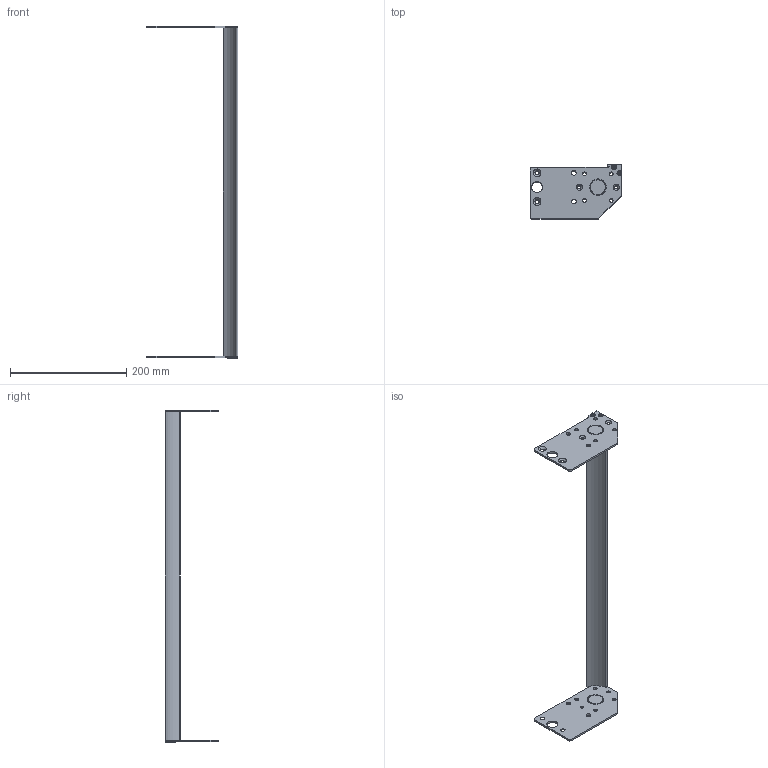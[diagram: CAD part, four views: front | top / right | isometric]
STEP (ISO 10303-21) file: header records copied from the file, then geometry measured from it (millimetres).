
FILE_DESCRIPTION((''),'2;1');
FILE_NAME('27M3300-24_ASM','2020-04-24T',('james.horst'),(''),'PRO/ENGINEER BY PARAMETRIC TECHNOLOGY CORPORATION, 2012420','PRO/ENGINEER BY PARAMETRIC TECHNOLOGY CORPORATION, 2012420','');
FILE_SCHEMA(('CONFIG_CONTROL_DESIGN'));
Length unit declared in the file: inch
Products named in the file (7): 350539-22; 350540_1; 930410M_1; 350541_1; 27M3300-10_ASM_1_ASM_1_ASM; 27M3300-28_ASM_1_ASM; 27M3300-24_ASM
Assembly tree (9 placements, depth 4):
  27M3300-24_ASM
    27M3300-28_ASM_1_ASM
      27M3300-10_ASM_1_ASM_1_ASM
        350539-22
        350540_1
        930410M_1  x4
        350541_1
Bounding box: 157.96 x 92.74 x 571.14 mm (x, y, z)
Volume: 237709.2 mm3; surface area: 119425.1 mm2
Topology: 7 solids, 11 shells, 206 faces, 556 edges, 368 vertices
Faces by surface type: cylinder 96, plane 70, cone 40
Entity records: 5570 total; most frequent: DIRECTION 1028, CARTESIAN_POINT 950, ORIENTED_EDGE 868, EDGE_CURVE 442, AXIS2_PLACEMENT_3D 411, VERTEX_POINT 296, CIRCLE 230, EDGE_LOOP 220
